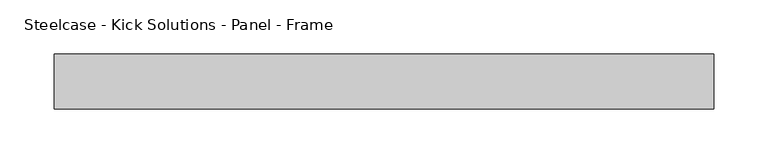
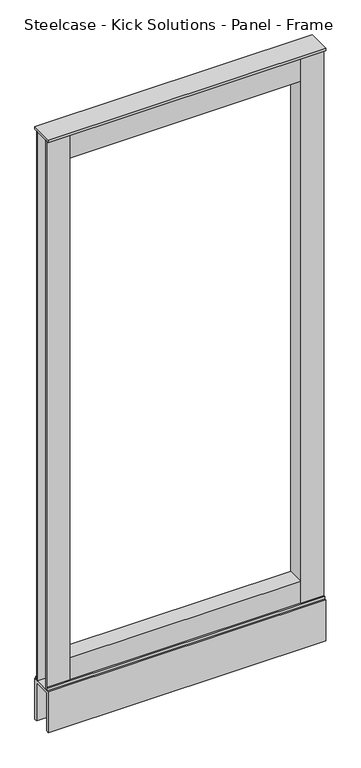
"""IFC4 building model written with IfcOpenShell, lengths in millimetres: furniture geometry, Steelcase - Kick Solutions - Panel - Frame : 54H x 24W."""

from ifc_helpers import new_model, si_unit, frame, origin, place, context, project, spatial, polyline, outline, extrude, source, transform, mapped, element, save


def steelcase_kick_solutions_panel_frame_c0dadac6(model_context):
    return source(origin(), model_context, "Body", "SweptSolid", [
        extrude(outline(polyline([(50.8006646, 6.3506854), (50.8006646, -31.7493123), (0.0, -31.7493123), (0.0, -29.2093123), (48.2606646, -29.2093123), (48.2606646, 3.8106854), (0.0, 3.8106854), (0.0, 6.3506854), (50.8006646, 6.3506854)])), frame((0.0, 0.0, 95.25), z_axis=(0.0, 0.0, 1.0), x_axis=(1.0, 0.0, 0.0)), (0.0, 0.0, 1.0), 1276.35),
        extrude(outline(polyline([(558.8006661, 6.3506854), (609.6, 6.3506854), (609.6, 3.8106854), (561.3393354, 3.8106854), (561.3393354, -29.2093123), (609.6, -29.2093123), (609.6, -31.7493123), (558.8006661, -31.7493123), (558.8006661, 6.3506854)])), frame((0.0, 0.0, 95.25), z_axis=(0.0, 0.0, 1.0), x_axis=(1.0, 0.0, 0.0)), (0.0, 0.0, 1.0), 1276.35),
        extrude(outline(polyline([(6.3506854, 101.600003), (9.5256855, 101.600003), (9.5256855, 95.25), (8.409661, 95.25), (8.409661, 100.2902081), (6.3506854, 100.2902081), (6.3506854, 101.600003)])), frame((0.0, 0.0, 0.0), z_axis=(1.0, 0.0, 0.0), x_axis=(0.0, 1.0, 0.0)), (0.0, 0.0, 1.0), 609.6),
        extrude(outline(polyline([(-34.9243138, 101.600003), (-31.7493123, 101.600003), (-31.7493123, 100.2902081), (-33.8479845, 100.2902081), (-33.8479845, 95.25), (-34.9243138, 95.25), (-34.9243138, 101.600003)])), frame((0.0, 0.0, 0.0), z_axis=(1.0, 0.0, 0.0), x_axis=(0.0, 1.0, 0.0)), (0.0, 0.0, 1.0), 609.6),
        extrude(outline(polyline([(558.8006661, -31.7493123), (50.8006646, -31.7493123), (50.8006646, 6.3506854), (558.8006661, 6.3506854), (558.8006661, -31.7493123)])), frame((0.0, 0.0, 1314.4500242), z_axis=(0.0, 0.0, 1.0), x_axis=(1.0, 0.0, 0.0)), (0.0, 0.0, 1.0), 57.1499758),
        extrude(outline(polyline([(558.8006661, -31.7493123), (50.8006646, -31.7493123), (50.8006646, 6.3506854), (558.8006661, 6.3506854), (558.8006661, -31.7493123)])), frame((0.0, 0.0, 95.25), z_axis=(0.0, 0.0, 1.0), x_axis=(1.0, 0.0, 0.0)), (0.0, 0.0, 1.0), 57.15),
        extrude(outline(polyline([(609.6, 12.7000004), (609.6, -38.1000011), (0.0, -38.1000011), (0.0, 12.7000004), (609.6, 12.7000004)])), frame((0.0, 0.0, 1371.6), z_axis=(0.0, 0.0, 1.0), x_axis=(1.0, 0.0, 0.0)), (0.0, 0.0, 1.0), 6.35),
        extrude(outline(polyline([(-38.1000011, 95.25), (12.7000004, 95.25), (12.7000004, 0.0), (6.3506854, 0.0), (6.3506854, 88.9), (-31.7493123, 88.9), (-31.7493123, 0.0), (-38.1000011, 0.0), (-38.1000011, 95.25)])), frame((0.0, 0.0, 0.0), z_axis=(1.0, 0.0, 0.0), x_axis=(0.0, 1.0, 0.0)), (0.0, 0.0, 1.0), 609.6),
    ])


if __name__ == "__main__":
    model = new_model("IFC4")
    model_context = context("Model", 3, world=origin())
    ifc_project = project(units=[si_unit("LENGTHUNIT", "METRE", prefix="MILLI")], contexts=[model_context])
    site = spatial("IfcSite", under=ifc_project)
    building = spatial("IfcBuilding", under=site)
    placement = place(None, origin())
    steelcase_kick_solutions_panel_frame_shape = steelcase_kick_solutions_panel_frame_c0dadac6(model_context)
    element("IfcFurniture", 1, ObjectType="Steelcase - Kick Solutions - Panel - Frame : 54H x 24W", at=placement, inside=building, context=model_context, shape_type="MappedRepresentation", body=[
        mapped(steelcase_kick_solutions_panel_frame_shape, transform((0.0, 0.0, 0.0), x_axis=(1.0, 0.0, 0.0), y_axis=(0.0, 1.0, 0.0), z_axis=(0.0, 0.0, 1.0))),
    ])
    save(model, "model.ifc")
